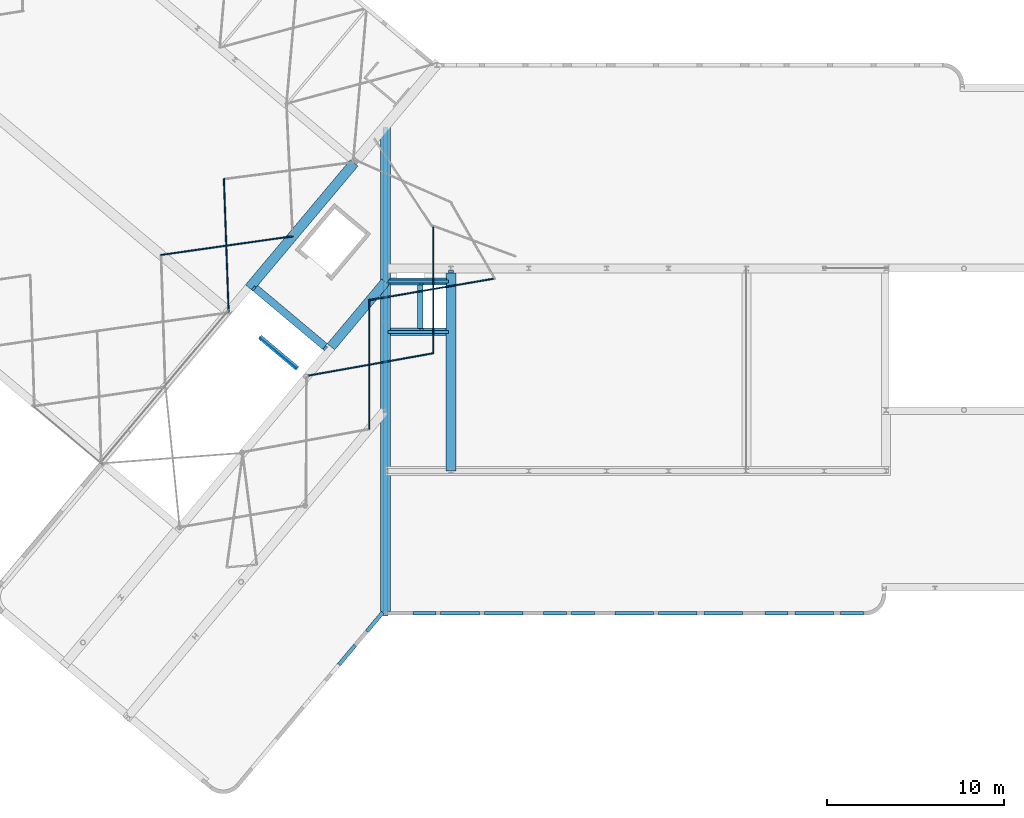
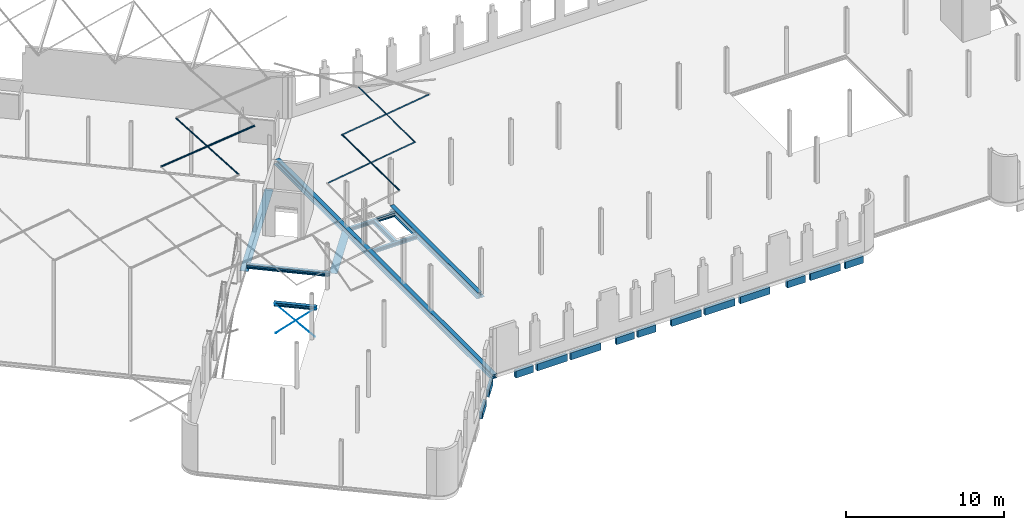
# One storey, part 14 of 25: 36 beams.
"""IFC2X3 building model written with IfcOpenShell, lengths in millimetres."""

from ifc_helpers import new_model, entity, si_unit, converted_unit, derived_unit, direction, frame, frame_2d, origin, origin_2d_with_axis, place, context, subcontext, project, spatial, polyline, circle_curve, parameter, trimmed, segment, composite_curve, rectangle, circle, i_section, outline, extrude, material, type_object, element, save


model = new_model("IFC2X3")

# Units and contexts
model_context = context("Model", 3, precision=0.01, world=origin(), true_north=direction((6.123031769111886e-17, 1.0)))
body_context = subcontext(model_context, "Body", "Model", "MODEL_VIEW")
ifc_project = project(units=[si_unit("LENGTHUNIT", "METRE", prefix="MILLI"), si_unit("AREAUNIT", "SQUARE_METRE"), si_unit("VOLUMEUNIT", "CUBIC_METRE"), derived_unit("MASSDENSITYUNIT", [(si_unit("MASSUNIT", "GRAM", prefix="KILO"), 1), (si_unit("LENGTHUNIT", "METRE"), -3)]), si_unit("MASSUNIT", "GRAM", prefix="KILO"), converted_unit("PLANEANGLEUNIT", "DEGREE", entity("IfcPlaneAngleMeasure", 0.017453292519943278), si_unit("PLANEANGLEUNIT", "RADIAN"), dimensions=[0, 0, 0, 0, 0, 0, 0])], contexts=[model_context])

# Site, building, storey
site_placement = place(None, origin())
site = spatial("IfcSite", under=ifc_project, at=site_placement, Name="Default", CompositionType="ELEMENT")
building_placement = place(site_placement, origin())
building = spatial("IfcBuilding", under=site, at=building_placement, Name="AT constructie", CompositionType="ELEMENT")
storey_placement = place(building_placement, frame((0.0, 0.0, 3864.0)))
storey = spatial("IfcBuildingStorey", under=building, at=storey_placement, Name="01 eerste verdieping", CompositionType="ELEMENT", Elevation=3864.0)

# Beams
ifc_material_1 = material(Name="f2_beton_prefab_gen")
beam_type_1 = type_object("IfcBeamType", Name="balk vierkant_gen_214x544 pbl", PredefinedType="NOTDEFINED")
beam_1_placement = place(storey_placement, frame((63711.874631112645, 11671.043508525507, 0.0), z_axis=(0.0, 0.0, 1.0), x_axis=(-1.0, 0.0, 0.0)))
element("IfcBeam", 1, at=beam_1_placement, inside=storey, type_object=beam_type_1, material=ifc_material_1, Name="NLRS_28_SF_LIB_balk vierkant prefab_gen_AT:balk vierkant_gen_214x544 pbl", ObjectType="NLRS_28_SF_LIB_balk vierkant prefab_gen_AT:balk vierkant_gen_214x544 pbl", context=body_context, shape_type="SweptSolid", body=[
    extrude(rectangle(XDim=544.0000000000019, YDim=213.99999999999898, at=frame_2d((0.0, -2.1671553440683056e-12), x_axis=(1.0, 0.0))), frame((-190.0, -107.0, -642.0), z_axis=(1.0, 0.0, 0.0), x_axis=(0.0, 0.0, -1.0)), (0.0, 0.0, 1.0), 1309.9999999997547),
])
beam_2_placement = place(storey_placement, frame((66281.87463111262, 11671.043508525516, 0.0), z_axis=(0.0, 0.0, 1.0), x_axis=(-1.0, 0.0, 0.0)))
element("IfcBeam", 2, at=beam_2_placement, inside=storey, type_object=beam_type_1, material=ifc_material_1, Name="NLRS_28_SF_LIB_balk vierkant prefab_gen_AT:balk vierkant_gen_214x544 pbl", ObjectType="NLRS_28_SF_LIB_balk vierkant prefab_gen_AT:balk vierkant_gen_214x544 pbl", context=body_context, shape_type="SweptSolid", body=[
    extrude(rectangle(XDim=544.0000000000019, YDim=213.99999999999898, at=frame_2d((0.0, -2.1671553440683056e-12), x_axis=(1.0, 0.0))), frame((-190.0, -107.0, -642.0), z_axis=(1.0, 0.0, 0.0), x_axis=(0.0, 0.0, -1.0)), (0.0, 0.0, 1.0), 2190.000000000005),
])
beam_3_placement = place(storey_placement, frame((61141.8746311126, 11671.043508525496, 0.0), z_axis=(0.0, 0.0, 1.0), x_axis=(-1.0, 0.0, 0.0)))
element("IfcBeam", 3, at=beam_3_placement, inside=storey, type_object=beam_type_1, material=ifc_material_1, Name="NLRS_28_SF_LIB_balk vierkant prefab_gen_AT:balk vierkant_gen_214x544 pbl", ObjectType="NLRS_28_SF_LIB_balk vierkant prefab_gen_AT:balk vierkant_gen_214x544 pbl", context=body_context, shape_type="SweptSolid", body=[
    extrude(rectangle(XDim=544.0000000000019, YDim=213.999999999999, at=origin_2d_with_axis()), frame((-190.0, -107.0, -642.0), z_axis=(1.0, 0.0, 0.0), x_axis=(0.0, 0.0, -1.0)), (0.0, 0.0, 1.0), 2190.000000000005),
])
beam_4_placement = place(storey_placement, frame((67971.87463111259, 11671.043508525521, 0.0), z_axis=(0.0, 0.0, 1.0), x_axis=(-1.0, 0.0, 0.0)))
element("IfcBeam", 4, at=beam_4_placement, inside=storey, type_object=beam_type_1, material=ifc_material_1, Name="NLRS_28_SF_LIB_balk vierkant prefab_gen_AT:balk vierkant_gen_214x544 pbl", ObjectType="NLRS_28_SF_LIB_balk vierkant prefab_gen_AT:balk vierkant_gen_214x544 pbl", context=body_context, shape_type="SweptSolid", body=[
    extrude(rectangle(XDim=544.0000000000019, YDim=213.999999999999, at=origin_2d_with_axis()), frame((-190.0, -107.0, -642.0), z_axis=(1.0, 0.0, 0.0), x_axis=(0.0, 0.0, -1.0)), (0.0, 0.0, 1.0), 1309.9999999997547),
])
for number, where, z_axis, x_axis in (
    (5, (58571.87463111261, 11671.043508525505, 0.0), (0.0, 0.0, 1.0), (-1.0, 0.0, 0.0)),
    (6, (56111.87463111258, 11671.043508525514, 0.0), (0.0, 0.0, 1.0), (-1.0, 0.0, 0.0)),
    (7, (48731.874631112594, 11671.043508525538, 0.0), (0.0, 0.0, 1.0), (-1.0, 0.0, 0.0)),
    (8, (46271.8746311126, 11671.043508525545, 0.0), (0.0, 0.0, 1.0), (-1.0, 0.0, 0.0)),
):
    element("IfcBeam", number, at=place(storey_placement, frame(where, z_axis=z_axis, x_axis=x_axis)), inside=storey, type_object=beam_type_1, material=ifc_material_1, Name="NLRS_28_SF_LIB_balk vierkant prefab_gen_AT:balk vierkant_gen_214x544 pbl", ObjectType="NLRS_28_SF_LIB_balk vierkant prefab_gen_AT:balk vierkant_gen_214x544 pbl", context=body_context, shape_type="SweptSolid", body=[
        extrude(rectangle(XDim=544.0000000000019, YDim=213.999999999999, at=origin_2d_with_axis()), frame((-190.0, -107.0, -642.0), z_axis=(1.0, 0.0, 0.0), x_axis=(0.0, 0.0, -1.0)), (0.0, 0.0, 1.0), 2190.000000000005),
    ])
beam_5_placement = place(storey_placement, frame((52771.874631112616, 11671.043508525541, 0.0), z_axis=(0.0, 0.0, 1.0), x_axis=(-1.0, 0.0, 0.0)))
element("IfcBeam", 9, at=beam_5_placement, inside=storey, type_object=beam_type_1, material=ifc_material_1, Name="NLRS_28_SF_LIB_balk vierkant prefab_gen_AT:balk vierkant_gen_214x544 pbl", ObjectType="NLRS_28_SF_LIB_balk vierkant prefab_gen_AT:balk vierkant_gen_214x544 pbl", context=body_context, shape_type="SweptSolid", body=[
    extrude(rectangle(XDim=544.0000000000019, YDim=213.99999999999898, at=frame_2d((0.0, -2.1671553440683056e-12), x_axis=(1.0, 0.0))), frame((-190.0, -107.0, -642.0), z_axis=(1.0, 0.0, 0.0), x_axis=(0.0, 0.0, -1.0)), (0.0, 0.0, 1.0), 1309.9999999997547),
])
for number, where, z_axis, x_axis in (
    (10, (51191.874631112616, 11671.043508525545, 0.0), (0.0, 0.0, 1.0), (-1.0, 0.0, 0.0)),
    (11, (43811.87463111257, 11671.043508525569, 0.0), (0.0, 0.0, 1.0), (-1.0, 0.0, 0.0)),
):
    element("IfcBeam", number, at=place(storey_placement, frame(where, z_axis=z_axis, x_axis=x_axis)), inside=storey, type_object=beam_type_1, material=ifc_material_1, Name="NLRS_28_SF_LIB_balk vierkant prefab_gen_AT:balk vierkant_gen_214x544 pbl", ObjectType="NLRS_28_SF_LIB_balk vierkant prefab_gen_AT:balk vierkant_gen_214x544 pbl", context=body_context, shape_type="SweptSolid", body=[
        extrude(rectangle(XDim=544.0000000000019, YDim=213.999999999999, at=origin_2d_with_axis()), frame((-190.0, -107.0, -642.0), z_axis=(1.0, 0.0, 0.0), x_axis=(0.0, 0.0, -1.0)), (0.0, 0.0, 1.0), 1309.9999999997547),
    ])
beam_6_placement = place(storey_placement, frame((39394.043818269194, 9753.306912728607, 0.0), z_axis=(0.0, 0.0, 1.0), x_axis=(-0.6427876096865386, -0.7660444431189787, 0.0)))
element("IfcBeam", 12, at=beam_6_placement, inside=storey, type_object=beam_type_1, material=ifc_material_1, Name="NLRS_28_SF_LIB_balk vierkant prefab_gen_AT:balk vierkant_gen_214x544 pbl", ObjectType="NLRS_28_SF_LIB_balk vierkant prefab_gen_AT:balk vierkant_gen_214x544 pbl", context=body_context, shape_type="SweptSolid", body=[
    extrude(rectangle(XDim=544.0000000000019, YDim=213.99999999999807, at=frame_2d((0.0, -4.703792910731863e-12), x_axis=(1.0, 0.0))), frame((-190.0, -107.0, -642.0), z_axis=(1.0, 0.0, 0.0), x_axis=(0.0, 0.0, -1.0)), (0.0, 0.0, 1.0), 1430.0000000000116),
])
beam_7_placement = place(storey_placement, frame((41092.99954903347, 11778.04350852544, 0.0), z_axis=(0.0, 0.0, 1.0), x_axis=(-0.6427876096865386, -0.7660444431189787, 0.0)))
element("IfcBeam", 13, at=beam_7_placement, inside=storey, type_object=beam_type_1, material=ifc_material_1, Name="NLRS_28_SF_LIB_balk vierkant prefab_gen_AT:balk vierkant_gen_214x544 pbl", ObjectType="NLRS_28_SF_LIB_balk vierkant prefab_gen_AT:balk vierkant_gen_214x544 pbl", context=body_context, shape_type="SweptSolid", body=[
    extrude(rectangle(XDim=544.0000000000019, YDim=213.99999999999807, at=frame_2d((0.0, 5.4001247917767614e-12), x_axis=(1.0, 0.0))), frame((22.70000060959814, -107.0, -642.0), z_axis=(1.0, 0.0, 0.0), x_axis=(0.0, 0.0, -1.0)), (0.0, 0.0, 1.0), 1400.4059105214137),
])
ifc_material_2 = material(Name="h2_staal_S355")
beam_type_2 = type_object("IfcBeamType", Name="balk HE_gen_HEB260", PredefinedType="NOTDEFINED")
beam_8_placement = place(storey_placement, frame((37896.424673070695, 26637.199838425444, 0.0), z_axis=(0.0, 0.0, 1.0), x_axis=(-0.7660444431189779, 0.6427876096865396, 0.0)))
element("IfcBeam", 14, at=beam_8_placement, inside=storey, type_object=beam_type_2, material=ifc_material_2, Name="NLRS_28_SF_LIB_balk HEB_gen_AT:balk HE_gen_HEB260", ObjectType="NLRS_28_SF_LIB_balk HEB_gen_AT:balk HE_gen_HEB260", context=body_context, shape_type="SweptSolid", body=[
    extrude(i_section(OverallWidth=260.0000000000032, OverallDepth=259.9999999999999, WebThickness=9.99999999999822, FlangeThickness=17.49999999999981, FilletRadius=24.000000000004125, at=frame_2d((2.7000623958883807e-13, -3.0411229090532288e-12), x_axis=(0.0, 1.0))), frame((142.6999999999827, 0.0, -240.0), z_axis=(1.0, 0.0, 0.0), x_axis=(0.0, 0.0, -1.0)), (0.0, 0.0, 1.0), 5382.300000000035),
])
beam_9_placement = place(storey_placement, frame((34047.469914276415, 27394.883384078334, 0.0), z_axis=(0.0, 0.0, 1.0), x_axis=(0.7660444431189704, -0.6427876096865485, 0.0)))
element("IfcBeam", 15, at=beam_9_placement, inside=storey, type_object=beam_type_2, material=ifc_material_2, Name="NLRS_28_SF_LIB_balk HEB_gen_AT:balk HE_gen_HEB260", ObjectType="NLRS_28_SF_LIB_balk HEB_gen_AT:balk HE_gen_HEB260", context=body_context, shape_type="SweptSolid", body=[
    extrude(i_section(OverallWidth=259.99999999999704, OverallDepth=260.00000000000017, WebThickness=9.99999999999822, FlangeThickness=17.50000000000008, FilletRadius=24.000000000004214, at=frame_2d((-1.4210854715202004e-13, -4.433786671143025e-12), x_axis=(0.0, 1.0))), frame((0.0, 0.0, -1620.0), z_axis=(1.0, 0.0, 0.0), x_axis=(0.0, 0.0, -1.0)), (0.0, 0.0, 1.0), 2771.0000000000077),
])
beam_type_3 = type_object("IfcBeamType", Name="balk strip liggend_gen_420x15", PredefinedType="NOTDEFINED")
beam_10_placement = place(storey_placement, frame((37934.99192965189, 26683.162505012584, 0.0), z_axis=(0.0, 0.0, 1.0), x_axis=(-0.7660444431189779, 0.6427876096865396, 0.0)))
element("IfcBeam", 16, at=beam_10_placement, inside=storey, type_object=beam_type_3, material=ifc_material_2, Name="NLRS_28_SF_LIB_balk strip_gen_AT:balk strip liggend_gen_420x15", ObjectType="NLRS_28_SF_LIB_balk strip_gen_AT:balk strip liggend_gen_420x15", context=body_context, shape_type="SweptSolid", body=[
    extrude(rectangle(XDim=14.999999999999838, YDim=420.00000000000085, at=origin_2d_with_axis()), frame((270.0, 0.0, -377.50000000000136), z_axis=(1.0, 0.0, 0.0), x_axis=(0.0, 0.0, -1.0)), (0.0, 0.0, 1.0), 5135.000000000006),
])
beam_11_placement = place(storey_placement, frame((41426.87463111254, 27681.043508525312, 0.0)))
element("IfcBeam", 17, at=beam_11_placement, inside=storey, type_object=beam_type_3, material=ifc_material_2, Name="NLRS_28_SF_LIB_balk strip_gen_AT:balk strip liggend_gen_420x15", ObjectType="NLRS_28_SF_LIB_balk strip_gen_AT:balk strip liggend_gen_420x15", context=body_context, shape_type="SweptSolid", body=[
    extrude(rectangle(XDim=14.999999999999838, YDim=419.9999999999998, at=frame_2d((0.0, 4.334310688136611e-12), x_axis=(1.0, 0.0))), frame((0.0, 0.0, -377.50000000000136), z_axis=(1.0, 0.0, 0.0), x_axis=(0.0, 0.0, -1.0)), (0.0, 0.0, 1.0), 3140.0000000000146),
])
beam_type_4 = type_object("IfcBeamType", Name="balk strip liggend_gen_400x15", PredefinedType="NOTDEFINED")
beam_12_placement = place(storey_placement, frame((41396.87463111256, 30531.043508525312, 0.0)))
element("IfcBeam", 18, at=beam_12_placement, inside=storey, type_object=beam_type_4, material=ifc_material_2, Name="NLRS_28_SF_LIB_balk strip_gen_AT:balk strip liggend_gen_400x15", ObjectType="NLRS_28_SF_LIB_balk strip_gen_AT:balk strip liggend_gen_400x15", context=body_context, shape_type="SweptSolid", body=[
    extrude(rectangle(XDim=14.999999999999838, YDim=400.0, at=frame_2d((0.0, -2.1742607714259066e-12), x_axis=(1.0, 0.0))), frame((0.0, 0.0, -377.50000000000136), z_axis=(1.0, 0.0, 0.0), x_axis=(0.0, 0.0, -1.0)), (0.0, 0.0, 1.0), 3200.0000000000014),
])
beam_type_5 = type_object("IfcBeamType", Name="balk HE_gen_HEB320", PredefinedType="NOTDEFINED")
beam_13_placement = place(storey_placement, frame((41146.87463111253, 11637.543508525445, 0.0), z_axis=(0.0, 0.0, 1.0), x_axis=(0.0, 1.0, 0.0)))
element("IfcBeam", 19, at=beam_13_placement, inside=storey, type_object=beam_type_5, material=ifc_material_2, Name="NLRS_28_SF_LIB_balk HEB_gen_AT:balk HE_gen_HEB320", ObjectType="NLRS_28_SF_LIB_balk HEB_gen_AT:balk HE_gen_HEB320", context=body_context, shape_type="SweptSolid", body=[
    extrude(i_section(OverallWidth=300.0000000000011, OverallDepth=319.99999999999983, WebThickness=11.500000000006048, FlangeThickness=20.500000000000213, FilletRadius=26.999999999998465, at=frame_2d((5.400124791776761e-13, 0.0), x_axis=(0.0, 1.0))), frame((0.0, 0.0, -210.0), z_axis=(1.0, 0.0, 0.0), x_axis=(0.0, 0.0, -1.0)), (0.0, 0.0, 1.0), 27589.999999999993),
])
beam_14_placement = place(storey_placement, frame((44846.87463111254, 19951.04350852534, 0.0), z_axis=(0.0, 0.0, 1.0), x_axis=(0.0, 1.0, 0.0)))
element("IfcBeam", 20, at=beam_14_placement, inside=storey, type_object=beam_type_5, material=ifc_material_2, Name="NLRS_28_SF_LIB_balk HEB_gen_AT:balk HE_gen_HEB320", ObjectType="NLRS_28_SF_LIB_balk HEB_gen_AT:balk HE_gen_HEB320", context=body_context, shape_type="SweptSolid", body=[
    extrude(i_section(OverallWidth=300.0000000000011, OverallDepth=319.99999999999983, WebThickness=11.500000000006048, FlangeThickness=20.500000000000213, FilletRadius=26.999999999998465, at=frame_2d((5.400124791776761e-13, 0.0), x_axis=(0.0, 1.0))), frame((0.0, 0.0, -210.0), z_axis=(1.0, 0.0, 0.0), x_axis=(0.0, 0.0, -1.0)), (0.0, 0.0, 1.0), 11189.99999999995),
])
beam_type_6 = type_object("IfcBeamType", Name="balk strip liggend_gen_560x20", PredefinedType="NOTDEFINED")
beam_15_placement = place(storey_placement, frame((41146.87463111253, 11885.043508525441, 0.0), z_axis=(0.0, 0.0, 1.0), x_axis=(0.0, 1.0, 0.0)))
element("IfcBeam", 21, at=beam_15_placement, inside=storey, type_object=beam_type_6, material=ifc_material_2, Name="NLRS_28_SF_LIB_balk strip_gen_AT:balk strip liggend_gen_560x20", ObjectType="NLRS_28_SF_LIB_balk strip_gen_AT:balk strip liggend_gen_560x20", context=body_context, shape_type="SweptSolid", body=[
    extrude(rectangle(XDim=19.999999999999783, YDim=559.999999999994, at=frame_2d((0.0, 4.320099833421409e-12), x_axis=(1.0, 0.0))), frame((6.096022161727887e-07, 0.0, -380.0), z_axis=(1.0, 0.0, 0.0), x_axis=(0.0, 0.0, -1.0)), (0.0, 0.0, 1.0), 27342.499999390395),
])
beam_16_placement = place(storey_placement, frame((33452.70431691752, 30170.112856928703, 0.0), z_axis=(0.0, 0.0, 1.0), x_axis=(0.642787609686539, 0.7660444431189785, 0.0)))
element("IfcBeam", 22, at=beam_16_placement, inside=storey, type_object=beam_type_6, material=ifc_material_2, Name="NLRS_28_SF_LIB_balk strip_gen_AT:balk strip liggend_gen_560x20", ObjectType="NLRS_28_SF_LIB_balk strip_gen_AT:balk strip liggend_gen_560x20", context=body_context, shape_type="SweptSolid", body=[
    extrude(rectangle(XDim=19.999999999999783, YDim=559.9999999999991, at=origin_2d_with_axis()), frame((0.0, 0.0, -601.0), z_axis=(1.0, 0.0, 0.0), x_axis=(0.0, 0.0, -1.0)), (0.0, 0.0, 1.0), 9219.999999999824),
])
beam_17_placement = place(storey_placement, frame((44846.87463111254, 19821.043508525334, 0.0), z_axis=(0.0, 0.0, 1.0), x_axis=(0.0, 1.0, 0.0)))
element("IfcBeam", 23, at=beam_17_placement, inside=storey, type_object=beam_type_6, material=ifc_material_2, Name="NLRS_28_SF_LIB_balk strip_gen_AT:balk strip liggend_gen_560x20", ObjectType="NLRS_28_SF_LIB_balk strip_gen_AT:balk strip liggend_gen_560x20", context=body_context, shape_type="SweptSolid", body=[
    extrude(rectangle(XDim=19.999999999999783, YDim=560.0000000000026, at=frame_2d((0.0, -4.320099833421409e-12), x_axis=(1.0, 0.0))), frame((6.096022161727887e-07, 0.0, -380.0), z_axis=(1.0, 0.0, 0.0), x_axis=(0.0, 0.0, -1.0)), (0.0, 0.0, 1.0), 11199.999999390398),
])
beam_type_7 = type_object("IfcBeamType", Name="balk strip liggend_gen_300x15", PredefinedType="NOTDEFINED")
beam_18_placement = place(storey_placement, frame((43121.874631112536, 27881.043508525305, 0.0), z_axis=(0.0, 0.0, 1.0), x_axis=(0.0, 1.0, 0.0)))
element("IfcBeam", 24, at=beam_18_placement, inside=storey, type_object=beam_type_7, material=ifc_material_2, Name="NLRS_28_SF_LIB_balk strip_gen_AT:balk strip liggend_gen_300x15", ObjectType="NLRS_28_SF_LIB_balk strip_gen_AT:balk strip liggend_gen_300x15", context=body_context, shape_type="SweptSolid", body=[
    extrude(rectangle(XDim=14.99999999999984, YDim=300.0000000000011, at=frame_2d((-5.413447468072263e-13, 0.0), x_axis=(1.0, 0.0))), frame((0.0, 0.0, -377.5000000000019), z_axis=(1.0, 0.0, 0.0), x_axis=(0.0, 0.0, -1.0)), (0.0, 0.0, 1.0), 2450.0000000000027),
])
beam_type_8 = type_object("IfcBeamType", Name="balk strip liggend_gen_540x15", PredefinedType="NOTDEFINED")
beam_19_placement = place(storey_placement, frame((37934.9919296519, 26683.162505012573, 0.0), z_axis=(0.0, 0.0, 1.0), x_axis=(0.642787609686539, 0.7660444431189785, 0.0)))
element("IfcBeam", 25, at=beam_19_placement, inside=storey, type_object=beam_type_8, material=ifc_material_2, Name="NLRS_28_SF_LIB_balk strip_gen_AT:balk strip liggend_gen_540x15", ObjectType="NLRS_28_SF_LIB_balk strip_gen_AT:balk strip liggend_gen_540x15", context=body_context, shape_type="SweptSolid", body=[
    extrude(rectangle(XDim=14.999999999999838, YDim=539.9999999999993, at=frame_2d((0.0, -1.3926637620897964e-12), x_axis=(1.0, 0.0))), frame((210.0, 0.0, -377.5000000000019), z_axis=(1.0, 0.0, 0.0), x_axis=(0.0, 0.0, -1.0)), (0.0, 0.0, 1.0), 4780.416728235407),
])
beam_type_9 = type_object("IfcBeamType", Name="balk HE_gen_HEB180", PredefinedType="NOTDEFINED")
beam_20_placement = place(storey_placement, frame((41296.87463111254, 30531.04350852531, 0.0)))
element("IfcBeam", 26, at=beam_20_placement, inside=storey, type_object=beam_type_9, material=ifc_material_2, Name="NLRS_28_SF_LIB_balk HEB_gen_AT:balk HE_gen_HEB180", ObjectType="NLRS_28_SF_LIB_balk HEB_gen_AT:balk HE_gen_HEB180", context=body_context, shape_type="SweptSolid", body=[
    extrude(i_section(OverallWidth=179.99999999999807, OverallDepth=179.9999999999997, WebThickness=8.499999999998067, FlangeThickness=14.000000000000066, FilletRadius=15.000000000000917, at=frame_2d((2.7000623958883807e-13, -4.334310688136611e-12), x_axis=(0.0, 1.0))), frame((0.0, 0.0, -280.0), z_axis=(1.0, 0.0, 0.0), x_axis=(0.0, 0.0, -1.0)), (0.0, 0.0, 1.0), 3400.000000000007),
])
beam_21_placement = place(storey_placement, frame((41296.87463111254, 27681.043508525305, 0.0)))
element("IfcBeam", 27, at=beam_21_placement, inside=storey, type_object=beam_type_9, material=ifc_material_2, Name="NLRS_28_SF_LIB_balk HEB_gen_AT:balk HE_gen_HEB180", ObjectType="NLRS_28_SF_LIB_balk HEB_gen_AT:balk HE_gen_HEB180", context=body_context, shape_type="SweptSolid", body=[
    extrude(i_section(OverallWidth=179.99999999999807, OverallDepth=179.9999999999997, WebThickness=8.499999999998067, FlangeThickness=14.000000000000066, FilletRadius=15.000000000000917, at=frame_2d((2.7000623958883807e-13, 4.334310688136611e-12), x_axis=(0.0, 1.0))), frame((0.0, 0.0, -280.0), z_axis=(1.0, 0.0, 0.0), x_axis=(0.0, 0.0, -1.0)), (0.0, 0.0, 1.0), 3400.000000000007),
])
beam_22_placement = place(storey_placement, frame((43181.874631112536, 27771.043508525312, 0.0), z_axis=(0.0, 0.0, 1.0), x_axis=(0.0, 1.0, 0.0)))
element("IfcBeam", 28, at=beam_22_placement, inside=storey, type_object=beam_type_9, material=ifc_material_2, Name="NLRS_28_SF_LIB_balk HEB_gen_AT:balk HE_gen_HEB180", ObjectType="NLRS_28_SF_LIB_balk HEB_gen_AT:balk HE_gen_HEB180", context=body_context, shape_type="SweptSolid", body=[
    extrude(i_section(OverallWidth=180.0000000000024, OverallDepth=179.9999999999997, WebThickness=8.499999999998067, FlangeThickness=14.000000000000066, FilletRadius=14.999999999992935, at=frame_2d((-8.100187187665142e-13, 0.0), x_axis=(0.0, 1.0))), frame((0.0, 0.0, -280.0), z_axis=(1.0, 0.0, 0.0), x_axis=(0.0, 0.0, -1.0)), (0.0, 0.0, 1.0), 2669.9999999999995),
])
beam_type_10 = type_object("IfcBeamType", Name="staaf_gen_ø16", PredefinedType="NOTDEFINED")
beam_23_placement = place(storey_placement, frame((36121.20994199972, 25626.926905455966, -1605.7533070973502), z_axis=(-0.5042812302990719, 0.4231421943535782, 0.7527623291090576), x_axis=(-0.5766493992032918, 0.4838662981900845, -0.6582923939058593)))
element("IfcBeam", 29, at=beam_23_placement, inside=storey, type_object=beam_type_10, material=ifc_material_2, Name="NLRS_28_SF_LIB_balk staaf_gen_AT:staaf_gen_ø16", ObjectType="NLRS_28_SF_LIB_balk staaf_gen_AT:staaf_gen_ø16", context=body_context, shape_type="SweptSolid", body=[
    extrude(circle(Radius=8.000000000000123, at=frame_2d((-2.03785395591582e-13, 4.536141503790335e-26), x_axis=(1.0, 0.0))), frame((0.0, 8.0, 0.0), z_axis=(1.0, 0.0, 0.0), x_axis=(0.0, 0.0, -1.0)), (0.0, 0.0, 1.0), 3442.2468165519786),
])
beam_24_placement = place(storey_placement, frame((34077.80678870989, 27341.545737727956, -1605.7533070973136), z_axis=(0.504281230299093, -0.4231421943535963, 0.7527623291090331), x_axis=(0.5766493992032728, -0.483866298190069, -0.6582923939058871)))
element("IfcBeam", 30, at=beam_24_placement, inside=storey, type_object=beam_type_10, material=ifc_material_2, Name="NLRS_28_SF_LIB_balk staaf_gen_AT:staaf_gen_ø16", ObjectType="NLRS_28_SF_LIB_balk staaf_gen_AT:staaf_gen_ø16", context=body_context, shape_type="SweptSolid", body=[
    extrude(circle(Radius=7.999999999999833, at=frame_2d((2.037853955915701e-13, -4.5414012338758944e-26), x_axis=(1.0, 0.0))), frame((0.0, -8.0, 0.0), z_axis=(1.0, 0.0, 0.0), x_axis=(0.0, 0.0, -1.0)), (0.0, 0.0, 1.0), 3442.24681655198),
])
beam_type_11 = type_object("IfcBeamType", Name="balk_gen_L70x70x7", PredefinedType="NOTDEFINED")
beam_25_placement = place(storey_placement, frame((28439.401649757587, 32059.675337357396, 8179.0), z_axis=(0.011784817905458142, 0.0016711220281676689, 0.9999291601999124), x_axis=(0.9900249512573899, 0.14038846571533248, -0.011902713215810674)))
element("IfcBeam", 31, at=beam_25_placement, inside=storey, type_object=beam_type_11, material=ifc_material_2, Name="NLRS_28_SF_LIB_balk hoeklijn_gen_AT:balk_gen_L70x70x7", ObjectType="NLRS_28_SF_LIB_balk hoeklijn_gen_AT:balk_gen_L70x70x7", context=body_context, shape_type="SweptSolid", body=[
    extrude(outline(composite_curve([segment(polyline([(-26.44444444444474, -26.444444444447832), (43.555555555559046, -26.444444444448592)]), True, "CONTINUOUS"), segment(polyline([(43.555555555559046, -26.444444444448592), (43.555555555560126, -23.944444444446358)]), True, "CONTINUOUS"), segment(trimmed(circle_curve(frame_2d((39.05555555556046, -23.944444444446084), x_axis=(1.0, 0.0)), 4.499999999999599), [parameter(0.0)], [parameter(89.99999999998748)], True, "PARAMETER"), True, "CONTINUOUS"), segment(polyline([(39.05555555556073, -19.444444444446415), (-10.444444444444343, -19.444444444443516)]), True, "CONTINUOUS"), segment(trimmed(circle_curve(frame_2d((-10.444444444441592, -10.444444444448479), x_axis=(0.0, -1.0)), 9.000000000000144), [parameter(270.00000000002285)], [parameter(0.0)], True, "PARAMETER"), False, "CONTINUOUS"), segment(polyline([(-19.444444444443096, -10.44444444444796), (-19.444444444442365, 39.055555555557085)]), True, "CONTINUOUS"), segment(trimmed(circle_curve(frame_2d((-23.94444444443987, 39.055555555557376), x_axis=(1.0, 0.0)), 4.499999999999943), [parameter(0.0)], [parameter(89.99999999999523)], True, "PARAMETER"), True, "CONTINUOUS"), segment(polyline([(-23.944444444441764, 43.555555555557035), (-26.44444444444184, 43.555555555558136)]), True, "CONTINUOUS"), segment(polyline([(-26.44444444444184, 43.555555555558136), (-26.444444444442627, -26.444444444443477)]), True, "CONTINUOUS")], self_intersect=False)), frame((0.0, -20.122742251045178, -63.34406291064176), z_axis=(1.0, 0.0, 0.0), x_axis=(0.0, 0.010689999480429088, 0.9999428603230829)), (0.0, 0.0, 1.0), 7565.51753727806),
])
beam_26_placement = place(storey_placement, frame((32043.87460741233, 36355.31893405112, 8089.278968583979), z_axis=(-0.00042164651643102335, 0.011875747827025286, 0.9999293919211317), x_axis=(0.03547997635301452, -0.9992997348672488, 0.011883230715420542)))
element("IfcBeam", 32, at=beam_26_placement, inside=storey, type_object=beam_type_11, material=ifc_material_2, Name="NLRS_28_SF_LIB_balk hoeklijn_gen_AT:balk_gen_L70x70x7", ObjectType="NLRS_28_SF_LIB_balk hoeklijn_gen_AT:balk_gen_L70x70x7", context=body_context, shape_type="SweptSolid", body=[
    extrude(outline(composite_curve([segment(polyline([(-26.444444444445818, -26.44444444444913), (43.555555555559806, -26.44444444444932)]), True, "CONTINUOUS"), segment(polyline([(43.555555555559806, -26.44444444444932), (43.555555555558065, -23.94444444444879)]), True, "CONTINUOUS"), segment(trimmed(circle_curve(frame_2d((39.05555555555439, -23.94444444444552), x_axis=(1.0, 0.0)), 4.500000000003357), [parameter(0.0)], [parameter(89.99999999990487)], True, "PARAMETER"), True, "CONTINUOUS"), segment(polyline([(39.05555555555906, -19.44444444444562), (-10.444444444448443, -19.4444444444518)]), True, "CONTINUOUS"), segment(trimmed(circle_curve(frame_2d((-10.444444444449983, -10.444444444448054), x_axis=(0.0, -1.0)), 8.999999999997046), [parameter(269.99999999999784)], [parameter(0.0)], True, "PARAMETER"), False, "CONTINUOUS"), segment(polyline([(-19.444444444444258, -10.444444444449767), (-19.444444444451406, 39.055555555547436)]), True, "CONTINUOUS"), segment(trimmed(circle_curve(frame_2d((-23.944444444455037, 39.05555555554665), x_axis=(1.0, 0.0)), 4.500000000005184), [parameter(0.0)], [parameter(89.99999999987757)], True, "PARAMETER"), True, "CONTINUOUS"), segment(polyline([(-23.944444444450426, 43.555555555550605), (-26.4444444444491, 43.555555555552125)]), True, "CONTINUOUS"), segment(polyline([(-26.4444444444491, 43.555555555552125), (-26.44444444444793, -26.44444444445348)]), True, "CONTINUOUS")], self_intersect=False)), frame((0.0, -20.124113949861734, -63.34362714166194), z_axis=(1.0, 0.0, 0.0), x_axis=(0.0, 0.010711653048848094, 0.9999426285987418)), (0.0, 0.0, 1.0), 7550.222120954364),
])
beam_27_placement = place(storey_placement, frame((47360.0651825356, 30681.411619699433, 8001.301490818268), z_axis=(0.012038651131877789, 0.0020750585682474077, 0.9999253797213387), x_axis=(-0.9853944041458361, -0.16984885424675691, 0.012216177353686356)))
element("IfcBeam", 33, at=beam_27_placement, inside=storey, type_object=beam_type_11, material=ifc_material_2, Name="NLRS_28_SF_LIB_balk hoeklijn_gen_AT:balk_gen_L70x70x7", ObjectType="NLRS_28_SF_LIB_balk hoeklijn_gen_AT:balk_gen_L70x70x7", context=body_context, shape_type="SweptSolid", body=[
    extrude(outline(composite_curve([segment(polyline([(-26.444444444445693, -26.444444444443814), (43.55555555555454, -26.44444444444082)]), True, "CONTINUOUS"), segment(polyline([(43.5555555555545, -26.44444444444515), (43.55555555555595, -23.944444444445)]), True, "CONTINUOUS"), segment(trimmed(circle_curve(frame_2d((39.05555555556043, -23.944444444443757), x_axis=(1.0, 0.0)), 4.499999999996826), [parameter(0.0)], [parameter(90.00000000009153)], True, "PARAMETER"), True, "CONTINUOUS"), segment(polyline([(39.055555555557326, -19.444444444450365), (-10.44444444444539, -19.44444444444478)]), True, "CONTINUOUS"), segment(trimmed(circle_curve(frame_2d((-10.444444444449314, -10.444444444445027), x_axis=(0.0, -1.0)), 8.999999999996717), [parameter(269.9999999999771)], [parameter(0.0)], True, "PARAMETER"), False, "CONTINUOUS"), segment(polyline([(-19.44444444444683, -10.444444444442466), (-19.444444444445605, 39.055555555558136)]), True, "CONTINUOUS"), segment(trimmed(circle_curve(frame_2d((-23.944444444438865, 39.05555555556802), x_axis=(1.0, 0.0)), 4.499999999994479), [parameter(0.0)], [parameter(90.00000000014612)], True, "PARAMETER"), True, "CONTINUOUS"), segment(polyline([(-23.944444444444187, 43.555555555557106), (-26.444444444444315, 43.55555555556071)]), True, "CONTINUOUS"), segment(polyline([(-26.444444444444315, 43.55555555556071), (-26.444444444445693, -26.444444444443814)]), True, "CONTINUOUS")], self_intersect=False)), frame((103.00111654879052, -18.78685796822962, -63.75303153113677), z_axis=(1.0, 0.0, 0.0), x_axis=(0.0, -0.01033031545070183, 0.999946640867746)), (0.0, 0.0, 1.0), 7163.855866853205),
])
beam_28_placement = place(storey_placement, frame((43825.63814258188, 26445.846720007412, 8089.565760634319), z_axis=(0.0, 0.012255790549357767, 0.9999248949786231), x_axis=(0.0, 0.9999248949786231, -0.012255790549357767)))
element("IfcBeam", 34, at=beam_28_placement, inside=storey, type_object=beam_type_11, material=ifc_material_2, Name="NLRS_28_SF_LIB_balk hoeklijn_gen_AT:balk_gen_L70x70x7", ObjectType="NLRS_28_SF_LIB_balk hoeklijn_gen_AT:balk_gen_L70x70x7", context=body_context, shape_type="SweptSolid", body=[
    extrude(outline(composite_curve([segment(polyline([(-26.44444444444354, -26.444444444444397), (43.55555555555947, -26.444444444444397)]), True, "CONTINUOUS"), segment(polyline([(43.55555555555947, -26.444444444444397), (43.555555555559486, -23.94444444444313)]), True, "CONTINUOUS"), segment(trimmed(circle_curve(frame_2d((39.05555555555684, -23.944444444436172), x_axis=(1.0, 0.0)), 4.500000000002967), [parameter(0.0)], [parameter(89.99999999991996)], True, "PARAMETER"), True, "CONTINUOUS"), segment(polyline([(39.05555555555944, -19.44444444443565), (-10.444444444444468, -19.444444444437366)]), True, "CONTINUOUS"), segment(trimmed(circle_curve(frame_2d((-10.444444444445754, -10.444444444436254), x_axis=(0.0, -1.0)), 8.99999999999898), [parameter(270.0000000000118)], [parameter(0.0)], True, "PARAMETER"), False, "CONTINUOUS"), segment(polyline([(-19.444444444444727, -10.444444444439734), (-19.444444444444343, 39.05555555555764)]), True, "CONTINUOUS"), segment(trimmed(circle_curve(frame_2d((-23.94444444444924, 39.05555555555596), x_axis=(1.0, 0.0)), 4.500000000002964), [parameter(0.0)], [parameter(89.99999999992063)], True, "PARAMETER"), True, "CONTINUOUS"), segment(polyline([(-23.944444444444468, 43.55555555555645), (-26.44444444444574, 43.555555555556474)]), True, "CONTINUOUS"), segment(polyline([(-26.44444444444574, 43.555555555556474), (-26.44444444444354, -26.444444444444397)]), True, "CONTINUOUS")], self_intersect=False)), frame((-8.365863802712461, -18.789856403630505, -63.752147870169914), z_axis=(1.0, 0.0, 0.0), x_axis=(0.0, -0.01028328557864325, 0.9999471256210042)), (0.0, 0.0, 1.0), 7179.836303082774),
])
beam_29_placement = place(storey_placement, frame((40263.531482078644, 29458.207882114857, 8089.278968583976), z_axis=(0.0, 0.01225579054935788, 0.999924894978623), x_axis=(0.0, -0.999924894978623, 0.01225579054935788)))
element("IfcBeam", 35, at=beam_29_placement, inside=storey, type_object=beam_type_11, material=ifc_material_2, Name="NLRS_28_SF_LIB_balk hoeklijn_gen_AT:balk_gen_L70x70x7", ObjectType="NLRS_28_SF_LIB_balk hoeklijn_gen_AT:balk_gen_L70x70x7", context=body_context, shape_type="SweptSolid", body=[
    extrude(outline(composite_curve([segment(polyline([(-26.444444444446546, -26.444444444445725), (43.55555555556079, -26.444444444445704)]), True, "CONTINUOUS"), segment(polyline([(43.55555555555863, -26.444444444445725), (43.55555555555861, -23.94444444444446)]), True, "CONTINUOUS"), segment(trimmed(circle_curve(frame_2d((39.0555555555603, -23.94444444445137), x_axis=(1.0, 0.0)), 4.499999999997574), [parameter(0.0)], [parameter(90.0000000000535)], True, "PARAMETER"), True, "CONTINUOUS"), segment(polyline([(39.055555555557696, -19.444444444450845), (-10.444444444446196, -19.444444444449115)]), True, "CONTINUOUS"), segment(trimmed(circle_curve(frame_2d((-10.444444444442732, -10.44444444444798), x_axis=(0.0, -1.0)), 9.000000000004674), [parameter(270.0000000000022)], [parameter(0.0)], True, "PARAMETER"), False, "CONTINUOUS"), segment(polyline([(-19.444444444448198, -10.444444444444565), (-19.44444444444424, 39.05555555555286)]), True, "CONTINUOUS"), segment(trimmed(circle_curve(frame_2d((-23.944444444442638, 39.05555555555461), x_axis=(1.0, 0.0)), 4.499999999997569), [parameter(0.0)], [parameter(90.0000000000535)], True, "PARAMETER"), True, "CONTINUOUS"), segment(polyline([(-23.944444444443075, 43.55555555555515), (-26.444444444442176, 43.555555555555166)]), True, "CONTINUOUS"), segment(polyline([(-26.444444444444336, 43.555555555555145), (-26.444444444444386, -26.444444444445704)]), True, "CONTINUOUS")], self_intersect=False)), frame((30.670642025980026, -20.096976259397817, -63.352242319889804), z_axis=(1.0, 0.0, 0.0), x_axis=(0.0, 0.010283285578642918, 0.9999471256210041)), (0.0, 0.0, 1.0), 7250.663732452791),
])
beam_30_placement = place(storey_placement, frame((43825.63814258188, 26445.846720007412, 8089.565760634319), z_axis=(0.012090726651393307, 0.0021650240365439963, 0.9999245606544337), x_axis=(-0.9842691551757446, -0.17624799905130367, 0.012283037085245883)))
element("IfcBeam", 36, at=beam_30_placement, inside=storey, type_object=beam_type_11, material=ifc_material_2, Name="NLRS_28_SF_LIB_balk hoeklijn_gen_AT:balk_gen_L70x70x7", ObjectType="NLRS_28_SF_LIB_balk hoeklijn_gen_AT:balk_gen_L70x70x7", context=body_context, shape_type="SweptSolid", body=[
    extrude(outline(composite_curve([segment(polyline([(-26.44444444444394, -26.444444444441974), (43.555555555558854, -26.444444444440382)]), True, "CONTINUOUS"), segment(polyline([(43.55555555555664, -26.44444444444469), (43.55555555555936, -23.944444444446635)]), True, "CONTINUOUS"), segment(trimmed(circle_curve(frame_2d((39.055555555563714, -23.944444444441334), x_axis=(1.0, 0.0)), 4.4999999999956), [parameter(0.0)], [parameter(90.00000000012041)], True, "PARAMETER"), True, "CONTINUOUS"), segment(polyline([(39.05555555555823, -19.444444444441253), (-10.444444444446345, -19.444444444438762)]), True, "CONTINUOUS"), segment(trimmed(circle_curve(frame_2d((-10.444444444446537, -10.444444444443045), x_axis=(0.0, -1.0)), 9.000000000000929), [parameter(270.00000000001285)], [parameter(0.0)], True, "PARAMETER"), False, "CONTINUOUS"), segment(polyline([(-19.44444444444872, -10.444444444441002), (-19.444444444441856, 39.05555555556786)]), True, "CONTINUOUS"), segment(trimmed(circle_curve(frame_2d((-23.944444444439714, 39.055555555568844), x_axis=(1.0, 0.0)), 4.499999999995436), [parameter(0.0)], [parameter(90.00000000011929)], True, "PARAMETER"), True, "CONTINUOUS"), segment(polyline([(-23.944444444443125, 43.55555555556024), (-26.44444444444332, 43.55555555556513)]), True, "CONTINUOUS"), segment(polyline([(-26.444444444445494, 43.55555555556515), (-26.444444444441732, -26.444444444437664)]), True, "CONTINUOUS")], self_intersect=False)), frame((21.065863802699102, -18.791932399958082, -63.751535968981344), z_axis=(1.0, 0.0, 0.0), x_axis=(0.0, -0.010250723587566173, 0.9999474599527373)), (0.0, 0.0, 1.0), 7135.426254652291),
])

save(model, "model.ifc")
